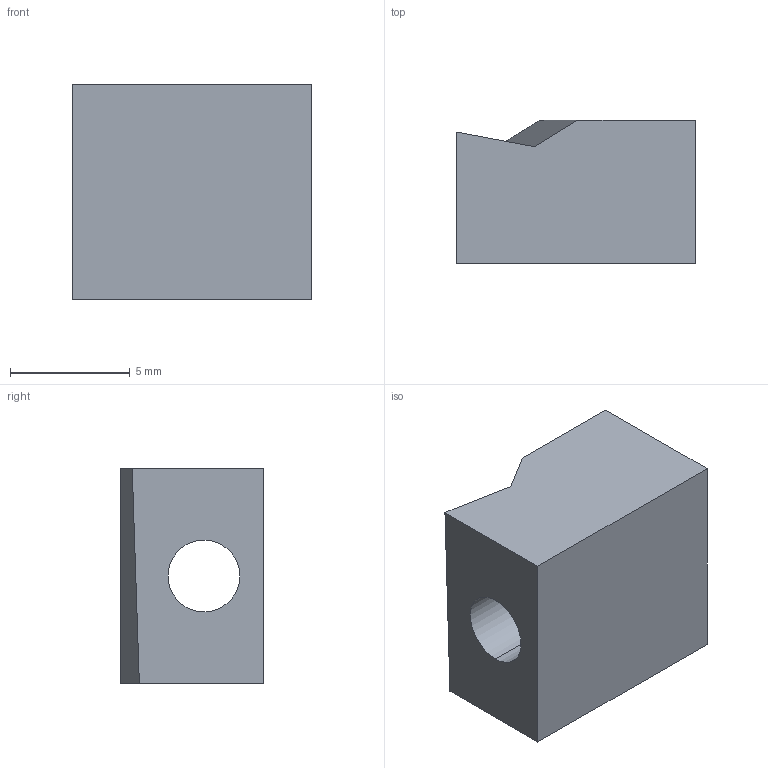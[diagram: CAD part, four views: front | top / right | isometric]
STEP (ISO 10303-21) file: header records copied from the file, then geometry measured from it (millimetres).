
FILE_DESCRIPTION (( 'STEP AP214' ), '1' );
FILE_NAME ('33.STEP', '2023-05-04T08:18:32', ( 'ay' ), ( '' ), 'SwSTEP 2.0', 'SolidWorks 2020', '' );
FILE_SCHEMA (( 'AUTOMOTIVE_DESIGN' ));
Length unit declared in the file: millimetre
Products named in the file (1): 33
Bounding box: 10 x 6 x 9 mm (x, y, z)
Volume: 440.7 mm3; surface area: 479.3 mm2
Topology: 1 solids, 1 shells, 10 faces, 24 edges, 16 vertices
Faces by surface type: plane 8, cylinder 2
Entity records: 330 total; most frequent: CARTESIAN_POINT 51, DIRECTION 50, ORIENTED_EDGE 48, EDGE_CURVE 24, VECTOR 20, LINE 20, VERTEX_POINT 16, AXIS2_PLACEMENT_3D 15
